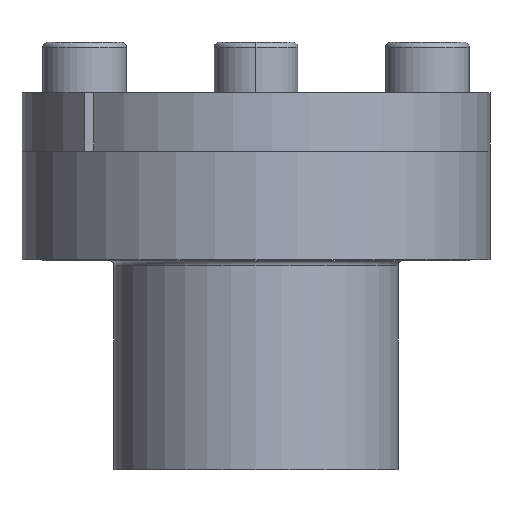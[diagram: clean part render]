
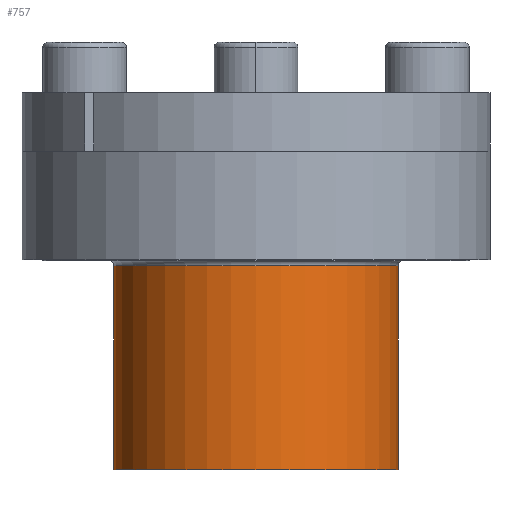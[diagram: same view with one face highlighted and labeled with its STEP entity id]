
A CAD part, front view. The second image highlights one B-rep face of the part: STEP entity #757.
In plain terms, the highlighted cylindrical face has radius 17 mm (diameter 34 mm), a partial arc.
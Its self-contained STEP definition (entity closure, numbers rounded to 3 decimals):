
#122 = CARTESIAN_POINT ( 'NONE',  ( 0., 0., -33. ) ) ;
#139 = LINE ( 'NONE', #6850, #6420 ) ;
#260 = LINE ( 'NONE', #3443, #4912 ) ;
#753 = DIRECTION ( 'NONE',  ( -1., 0., 0. ) ) ;
#757 = ADVANCED_FACE ( 'NONE', ( #4076 ), #4915, .T. ) ;
#1682 = VERTEX_POINT ( 'NONE', #4491 ) ;
#1915 = DIRECTION ( 'NONE',  ( 0., 0., -1. ) ) ;
#1968 = DIRECTION ( 'NONE',  ( -1., 0., 0. ) ) ;
#2236 = AXIS2_PLACEMENT_3D ( 'NONE', #122, #4369, #753 ) ;
#2525 = ORIENTED_EDGE ( 'NONE', *, *, #7380, .T. ) ;
#2541 = VERTEX_POINT ( 'NONE', #6529 ) ;
#2551 = CARTESIAN_POINT ( 'NONE',  ( 0., 0., -8. ) ) ;
#2800 = EDGE_CURVE ( 'NONE', #5060, #1682, #260, .T. ) ;
#3178 = DIRECTION ( 'NONE',  ( 0., 0., -1. ) ) ;
#3257 = DIRECTION ( 'NONE',  ( 0., 0., -1. ) ) ;
#3443 = CARTESIAN_POINT ( 'NONE',  ( 17., 0., -8. ) ) ;
#3497 = AXIS2_PLACEMENT_3D ( 'NONE', #5517, #1915, #6141 ) ;
#3628 = CARTESIAN_POINT ( 'NONE',  ( -17., 0., -8.6 ) ) ;
#3810 = ORIENTED_EDGE ( 'NONE', *, *, #7293, .T. ) ;
#3864 = CIRCLE ( 'NONE', #3497, 17. ) ;
#4039 = DIRECTION ( 'NONE',  ( 0., 0., -1. ) ) ;
#4076 = FACE_OUTER_BOUND ( 'NONE', #6116, .T. ) ;
#4369 = DIRECTION ( 'NONE',  ( 0., 0., -1. ) ) ;
#4491 = CARTESIAN_POINT ( 'NONE',  ( 17., 0., -33. ) ) ;
#4912 = VECTOR ( 'NONE', #4039, 1000. ) ;
#4915 = CYLINDRICAL_SURFACE ( 'NONE', #7302, 17. ) ;
#4969 = EDGE_CURVE ( 'NONE', #1682, #2541, #5513, .T. ) ;
#5060 = VERTEX_POINT ( 'NONE', #5724 ) ;
#5191 = ORIENTED_EDGE ( 'NONE', *, *, #2800, .F. ) ;
#5513 = CIRCLE ( 'NONE', #2236, 17. ) ;
#5517 = CARTESIAN_POINT ( 'NONE',  ( 0., 0., -8.6 ) ) ;
#5724 = CARTESIAN_POINT ( 'NONE',  ( 17., 0., -8.6 ) ) ;
#6116 = EDGE_LOOP ( 'NONE', ( #5191, #3810, #2525, #6859 ) ) ;
#6141 = DIRECTION ( 'NONE',  ( -1., 0., 0. ) ) ;
#6420 = VECTOR ( 'NONE', #3257, 1000. ) ;
#6529 = CARTESIAN_POINT ( 'NONE',  ( -17., 0., -33. ) ) ;
#6768 = VERTEX_POINT ( 'NONE', #3628 ) ;
#6850 = CARTESIAN_POINT ( 'NONE',  ( -17., 0., -8. ) ) ;
#6859 = ORIENTED_EDGE ( 'NONE', *, *, #4969, .F. ) ;
#7293 = EDGE_CURVE ( 'NONE', #5060, #6768, #3864, .T. ) ;
#7302 = AXIS2_PLACEMENT_3D ( 'NONE', #2551, #3178, #1968 ) ;
#7380 = EDGE_CURVE ( 'NONE', #6768, #2541, #139, .T. ) ;
